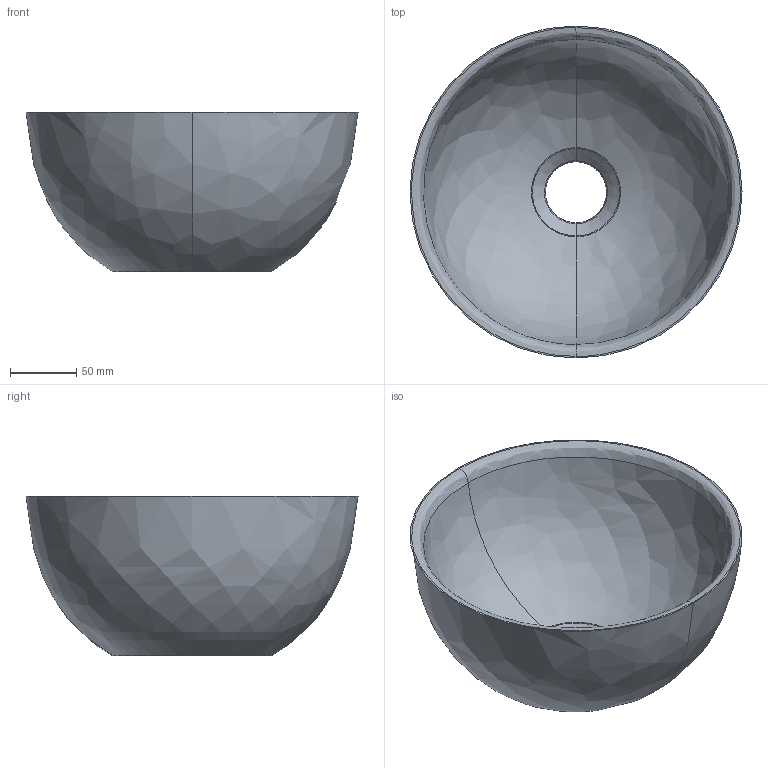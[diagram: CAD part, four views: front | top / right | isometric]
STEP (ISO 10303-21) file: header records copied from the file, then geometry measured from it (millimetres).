
FILE_DESCRIPTION (( 'STEP AP214' ), '1' );
FILE_NAME ('PAA-Washbasins-Silkstone-Do-25-IDO25-XX-3D.STEP', '2024-06-07T06:35:01', ( 'PC Lite' ), ( '' ), 'SwSTEP 2.0', 'SolidWorks 2018', '' );
FILE_SCHEMA (( 'AUTOMOTIVE_DESIGN' ));
Length unit declared in the file: millimetre
Products named in the file (1): PAA-Washbasins-Silkstone-Do-25-IDO25-XX-3D
Bounding box: 250 x 250 x 120 mm (x, y, z)
Volume: 1336886.4 mm3; surface area: 187018.8 mm2
Topology: 1 solids, 1 shells, 16 faces, 32 edges, 18 vertices
Faces by surface type: bspline 10, cylinder 2, cone 2, plane 2
Entity records: 1888 total; most frequent: CARTESIAN_POINT 1609, ORIENTED_EDGE 64, EDGE_CURVE 32, DIRECTION 30, VERTEX_POINT 18, EDGE_LOOP 18, FACE_OUTER_BOUND 16, ADVANCED_FACE 16
